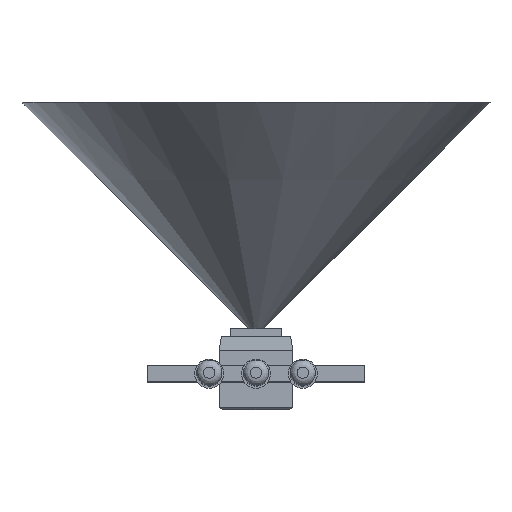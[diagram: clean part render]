
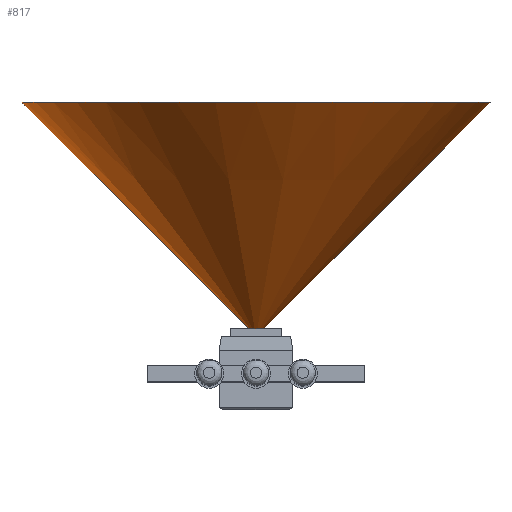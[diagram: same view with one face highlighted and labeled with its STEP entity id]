
A CAD part, top view. The second image highlights one B-rep face of the part: STEP entity #817.
In plain terms, the highlighted conical face has half-angle 45 degrees and reference radius 6.35 mm.
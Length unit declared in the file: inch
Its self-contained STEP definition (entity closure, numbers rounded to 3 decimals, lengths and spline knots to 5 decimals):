
#13=CONICAL_SURFACE('',#924,0.25,0.785);
#53=CIRCLE('',#923,0.5);
#136=FACE_OUTER_BOUND('',#200,.T.);
#200=EDGE_LOOP('',(#706,#707,#708));
#274=LINE('',#1468,#348);
#348=VECTOR('',#1166,0.25);
#410=VERTEX_POINT('',#1464);
#411=VERTEX_POINT('',#1467);
#509=EDGE_CURVE('',#410,#410,#53,.T.);
#510=EDGE_CURVE('',#410,#411,#274,.T.);
#706=ORIENTED_EDGE('',*,*,#509,.F.);
#707=ORIENTED_EDGE('',*,*,#510,.T.);
#708=ORIENTED_EDGE('',*,*,#510,.F.);
#817=ADVANCED_FACE('',(#136),#13,.T.);
#923=AXIS2_PLACEMENT_3D('',#1465,#1162,#1163);
#924=AXIS2_PLACEMENT_3D('',#1466,#1164,#1165);
#1162=DIRECTION('center_axis',(0.,1.,0.));
#1163=DIRECTION('ref_axis',(1.,0.,0.));
#1164=DIRECTION('center_axis',(0.,1.,0.));
#1165=DIRECTION('ref_axis',(1.,0.,0.));
#1166=DIRECTION('',(0.707,-0.707,0.));
#1464=CARTESIAN_POINT('',(-0.2675,0.59799,0.1053));
#1465=CARTESIAN_POINT('Origin',(0.2325,0.59799,0.1053));
#1466=CARTESIAN_POINT('Origin',(0.2325,0.34799,0.1053));
#1467=CARTESIAN_POINT('',(0.2325,0.09799,0.1053));
#1468=CARTESIAN_POINT('',(-0.0175,0.34799,0.1053));
